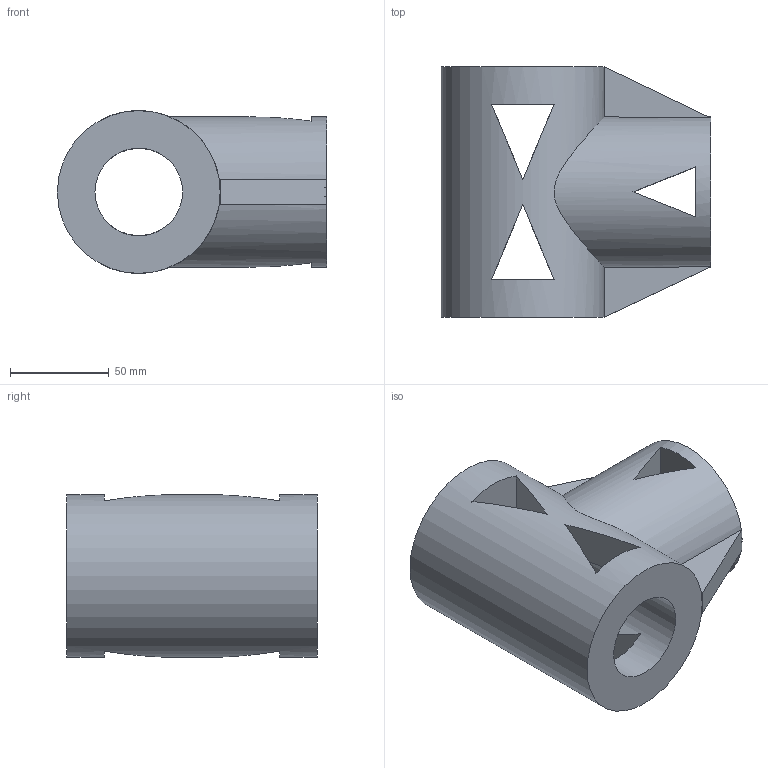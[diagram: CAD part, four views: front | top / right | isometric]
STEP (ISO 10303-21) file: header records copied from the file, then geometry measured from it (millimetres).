
FILE_DESCRIPTION(/* description */ (''),/* implementation_level */ '2;1');
FILE_NAME(/* name */ 'C:\Users\zachr\Desktop\3D printer stuff\Equi Mount Mk2\DecArm.stp',/* time_stamp */ '2018-03-29T20:14:53-05:00',/* author */ ('zachr'),/* organization */ (''),/* preprocessor_version */ 'ST-DEVELOPER v16.13',/* originating_system */ 'Autodesk Inventor 2018',/* authorisation */ '');
FILE_SCHEMA (('AUTOMOTIVE_DESIGN { 1 0 10303 214 3 1 1 }'));
Length unit declared in the file: inch
Products named in the file (1): DecArm
Bounding box: 136.53 x 127 x 82.55 mm (x, y, z)
Volume: 643527.5 mm3; surface area: 91105.8 mm2
Topology: 1 solids, 1 shells, 37 faces, 98 edges, 64 vertices
Faces by surface type: plane 31, cylinder 6
Full cylindrical faces by diameter (mm): 38.1 x1, 44.45 x1, 76.2 x1, 82.55 x1
Entity records: 1294 total; most frequent: CARTESIAN_POINT 314, DIRECTION 208, ORIENTED_EDGE 174, EDGE_CURVE 87, AXIS2_PLACEMENT_3D 85, VERTEX_POINT 59, EDGE_LOOP 58, LINE 38
